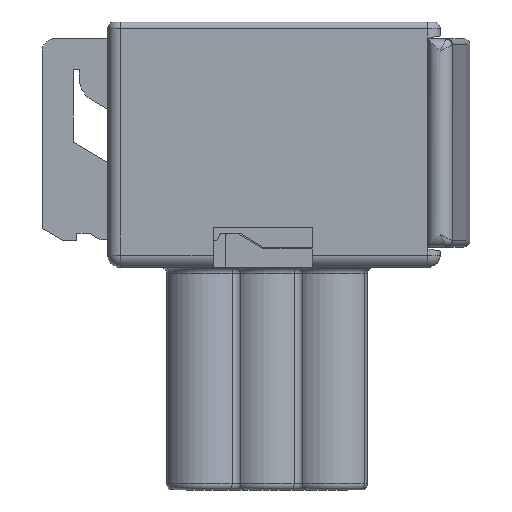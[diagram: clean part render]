
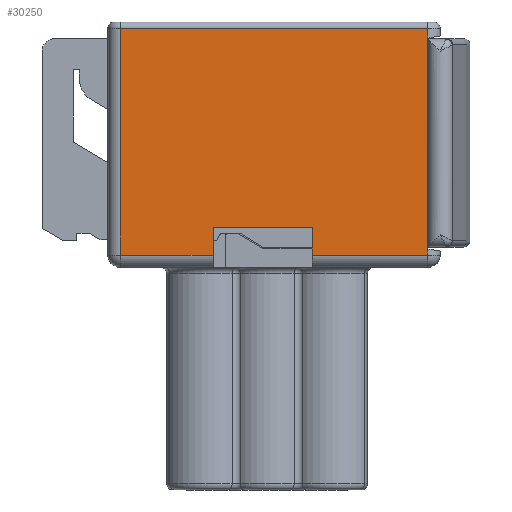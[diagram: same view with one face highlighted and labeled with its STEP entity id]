
A CAD part, front view. The second image highlights one B-rep face of the part: STEP entity #30250.
In plain terms, the highlighted planar face has unit normal (0, -1, 0).
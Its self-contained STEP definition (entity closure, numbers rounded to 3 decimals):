
#10722=CARTESIAN_POINT('',(12.95,-12.15,-1.3));
#11129=CARTESIAN_POINT('',(12.95,-12.15,-18.3));
#11148=DIRECTION('',(0.,0.,-1.));
#11149=VECTOR('',#11148,0.8);
#11150=CARTESIAN_POINT('',(12.95,-12.15,-0.5));
#11151=LINE('',#11150,#11149);
#11163=DIRECTION('',(0.,0.,-1.));
#11164=VECTOR('',#11163,0.5);
#11165=CARTESIAN_POINT('',(12.95,-12.15,-18.3));
#11166=LINE('',#11165,#11164);
#11170=DIRECTION('',(0.,0.,1.));
#11171=VECTOR('',#11170,16.8);
#11172=CARTESIAN_POINT('',(12.95,-12.15,-18.15));
#11173=LINE('',#11172,#11171);
#11177=DIRECTION('',(0.,0.,1.));
#11178=VECTOR('',#11177,0.15);
#11179=CARTESIAN_POINT('',(12.95,-12.15,-18.3));
#11180=LINE('',#11179,#11178);
#11184=DIRECTION('',(-1.,0.,0.));
#11185=VECTOR('',#11184,9.3);
#11186=CARTESIAN_POINT('',(12.95,-12.15,-18.8));
#11187=LINE('',#11186,#11185);
#11191=DIRECTION('',(0.,0.,1.));
#11192=VECTOR('',#11191,2.2);
#11193=CARTESIAN_POINT('',(3.65,-12.15,-18.8));
#11194=LINE('',#11193,#11192);
#11198=DIRECTION('',(1.,0.,0.));
#11199=VECTOR('',#11198,8.);
#11200=CARTESIAN_POINT('',(-4.35,-12.15,-16.6));
#11201=LINE('',#11200,#11199);
#11205=DIRECTION('',(0.,0.,1.));
#11206=VECTOR('',#11205,2.2);
#11207=CARTESIAN_POINT('',(-4.35,-12.15,-18.8));
#11208=LINE('',#11207,#11206);
#11212=DIRECTION('',(-1.,0.,0.));
#11213=VECTOR('',#11212,7.5);
#11214=CARTESIAN_POINT('',(-4.35,-12.15,-18.8));
#11215=LINE('',#11214,#11213);
#11219=DIRECTION('',(0.,0.,-1.));
#11220=VECTOR('',#11219,18.3);
#11221=CARTESIAN_POINT('',(-11.85,-12.15,-0.5));
#11222=LINE('',#11221,#11220);
#11226=DIRECTION('',(1.,0.,0.));
#11227=VECTOR('',#11226,24.8);
#11228=CARTESIAN_POINT('',(-11.85,-12.15,-0.5));
#11229=LINE('',#11228,#11227);
#11233=DIRECTION('',(0.,0.,1.));
#11234=VECTOR('',#11233,0.05);
#11235=CARTESIAN_POINT('',(12.95,-12.15,-1.35));
#11236=LINE('',#11235,#11234);
#17866=CARTESIAN_POINT('',(-4.35,-12.15,-16.6));
#17867=CARTESIAN_POINT('',(3.65,-12.15,-16.6));
#17868=VERTEX_POINT('',#17866);
#17869=VERTEX_POINT('',#17867);
#18154=VERTEX_POINT('',#11129);
#18155=VERTEX_POINT('',#10722);
#18916=CARTESIAN_POINT('',(-11.85,-12.15,-0.5));
#18917=VERTEX_POINT('',#18916);
#18920=CARTESIAN_POINT('',(12.95,-12.15,-0.5));
#18921=VERTEX_POINT('',#18920);
#19388=CARTESIAN_POINT('',(-11.85,-12.15,-18.8));
#19389=VERTEX_POINT('',#19388);
#19390=CARTESIAN_POINT('',(-4.35,-12.15,-18.8));
#19392=VERTEX_POINT('',#19390);
#19395=CARTESIAN_POINT('',(3.65,-12.15,-18.8));
#19397=VERTEX_POINT('',#19395);
#19398=CARTESIAN_POINT('',(12.95,-12.15,-18.8));
#19399=VERTEX_POINT('',#19398);
#20088=CARTESIAN_POINT('',(12.95,-12.15,-18.15));
#20089=VERTEX_POINT('',#20088);
#20090=CARTESIAN_POINT('',(12.95,-12.15,-1.35));
#20091=VERTEX_POINT('',#20090);
#30227=CARTESIAN_POINT('',(-11.85,-12.15,0.));
#30228=DIRECTION('',(0.,-1.,0.));
#30229=DIRECTION('',(1.,0.,0.));
#30230=AXIS2_PLACEMENT_3D('',#30227,#30228,#30229);
#30231=PLANE('',#30230);
#30232=ORIENTED_EDGE('',*,*,#21106,.F.);
#30233=ORIENTED_EDGE('',*,*,#21559,.F.);
#30234=ORIENTED_EDGE('',*,*,#30220,.T.);
#30236=ORIENTED_EDGE('',*,*,#30235,.T.);
#30238=ORIENTED_EDGE('',*,*,#30237,.T.);
#30240=ORIENTED_EDGE('',*,*,#30239,.F.);
#30241=ORIENTED_EDGE('',*,*,#24650,.F.);
#30242=ORIENTED_EDGE('',*,*,#24675,.T.);
#30244=ORIENTED_EDGE('',*,*,#30243,.F.);
#30245=ORIENTED_EDGE('',*,*,#29741,.T.);
#30246=ORIENTED_EDGE('',*,*,#30208,.T.);
#30247=ORIENTED_EDGE('',*,*,#21585,.F.);
#30248=EDGE_LOOP('',(#30232,#30233,#30234,#30236,#30238,#30240,#30241,#30242,
#30244,#30245,#30246,#30247));
#30249=FACE_OUTER_BOUND('',#30248,.F.);
#21106=EDGE_CURVE('',#20089,#20091,#11173,.T.);
#21559=EDGE_CURVE('',#18154,#20089,#11180,.T.);
#21585=EDGE_CURVE('',#20091,#18155,#11236,.T.);
#24650=EDGE_CURVE('',#19392,#17868,#11208,.T.);
#24675=EDGE_CURVE('',#19392,#19389,#11215,.T.);
#29741=EDGE_CURVE('',#18917,#18921,#11229,.T.);
#30208=EDGE_CURVE('',#18921,#18155,#11151,.T.);
#30220=EDGE_CURVE('',#18154,#19399,#11166,.T.);
#30235=EDGE_CURVE('',#19399,#19397,#11187,.T.);
#30237=EDGE_CURVE('',#19397,#17869,#11194,.T.);
#30239=EDGE_CURVE('',#17868,#17869,#11201,.T.);
#30243=EDGE_CURVE('',#18917,#19389,#11222,.T.);
#30250=ADVANCED_FACE('',(#30249),#30231,.T.);
